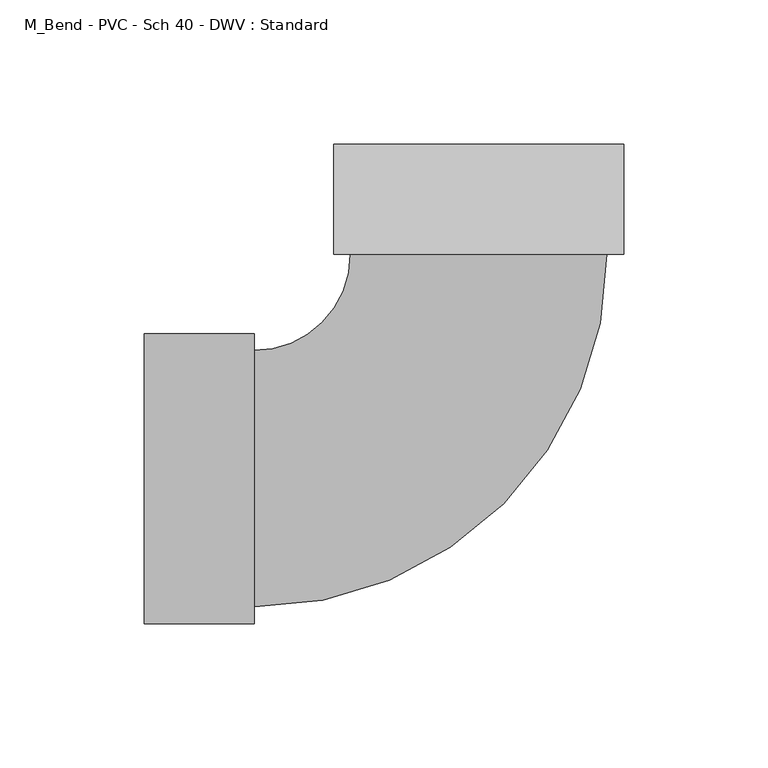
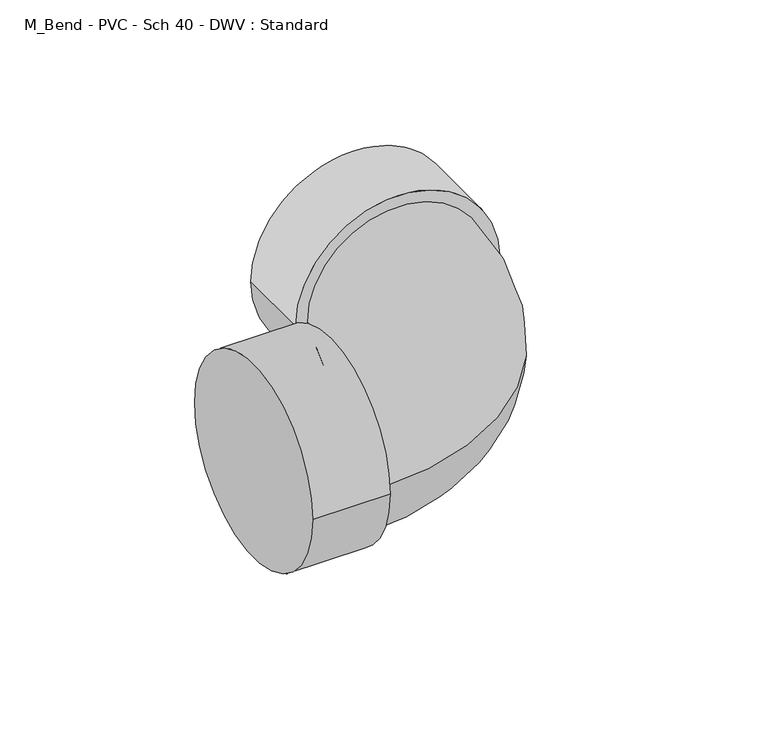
"""IFC4 building model written with IfcOpenShell, lengths in millimetres: pipe fitting geometry, M_Bend - PVC - Sch 40 - DWV : Standard."""

from ifc_helpers import new_model, si_unit, point, frame, origin, place, context, project, spatial, circle_curve, ellipse_curve, trimmed, source, transform, mapped, element, save
from ifc_brep_helpers import plane_surface, cylinder_surface, revolved_surface, advanced_brep


def m_bend_pvc_sch_40_dwv_standard_0050fb47(model_context):
    return source(origin(), model_context, "Body", "AdvancedBrep", [
        advanced_brep(
        [(-115.9002, -50.2666, 0.0), (-115.9002, 50.2666, 0.0), (-77.8002, -50.2666, 0.0), (-77.8002, 50.2666, 0.0), (-77.8002, -44.45, 0.0), (-77.8002, 44.45, 0.0), (-44.4500397, 77.8001773, 0.0), (44.4499603, 77.8002227, 0.0), (50.2665603, 77.8002256, 0.0), (-50.2666397, 77.8001744, 0.0), (50.2665409, 115.9002256, 0.0), (-50.2666591, 115.9001744, 0.0)],
        [
            (0, 1, circle_curve(frame((-115.9002, 0.0, 0.0), z_axis=(-1.0, 0.0, 0.0), x_axis=(0.0, 1.0, 0.0)), 50.2666)),
            (1, 0, circle_curve(frame((-115.9002, 0.0, 0.0), z_axis=(-1.0, 0.0, 0.0), x_axis=(0.0, 1.0, 0.0)), 50.2666)),
            (2, 3, circle_curve(frame((-77.8002, 0.0, 0.0), z_axis=(1.0, 0.0, 0.0), x_axis=(0.0, 1.0, 0.0)), 50.2666)),
            (3, 2, circle_curve(frame((-77.8002, 0.0, 0.0), z_axis=(1.0, 0.0, 0.0), x_axis=(0.0, 1.0, 0.0)), 50.2666)),
            (4, 5, circle_curve(frame((-77.8002, 0.0, 0.0), z_axis=(-1.0, 0.0, 0.0), x_axis=(0.0, 1.0, 0.0)), 44.45)),
            (5, 4, circle_curve(frame((-77.8002, 0.0, 0.0), z_axis=(-1.0, 0.0, 0.0), x_axis=(0.0, 1.0, 0.0)), 44.45)),
            (0, 2),
            (3, 1),
            (6, 5, circle_curve(frame((-77.8002, 77.8001603, 0.0), z_axis=(0.0, 0.0, -1.0), x_axis=(0.0, -1.0, 0.0)), 33.3501603)),
            (4, 7, circle_curve(frame((-77.8002, 77.8001603, 0.0), z_axis=(0.0, 0.0, 1.0), x_axis=(0.0, -1.0, 0.0)), 122.2501603)),
            (7, 6, circle_curve(frame((-3.97e-05, 77.8002, 0.0), z_axis=(5.097531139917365e-07, -0.9999999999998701, 0.0), x_axis=(-0.9999999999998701, -5.097531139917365e-07, 0.0)), 44.45)),
            (6, 7, circle_curve(frame((-3.97e-05, 77.8002, 0.0), z_axis=(5.097531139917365e-07, -0.9999999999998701, 0.0), x_axis=(-0.9999999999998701, -5.097531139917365e-07, 0.0)), 44.45)),
            (8, 9, circle_curve(frame((-3.97e-05, 77.8002, 0.0), z_axis=(5.097531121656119e-07, -0.9999999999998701, 0.0), x_axis=(-0.9999999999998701, -5.097531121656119e-07, 0.0)), 50.2666)),
            (9, 8, circle_curve(frame((-3.97e-05, 77.8002, 0.0), z_axis=(5.097531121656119e-07, -0.9999999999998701, 0.0), x_axis=(-0.9999999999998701, -5.097531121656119e-07, 0.0)), 50.2666)),
            (10, 11, circle_curve(frame((-5.91e-05, 115.9002, 0.0), z_axis=(-5.097531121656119e-07, 0.9999999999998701, 0.0), x_axis=(-0.9999999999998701, -5.097531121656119e-07, 0.0)), 50.2666)),
            (11, 10, circle_curve(frame((-5.91e-05, 115.9002, 0.0), z_axis=(-5.097531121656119e-07, 0.9999999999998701, 0.0), x_axis=(-0.9999999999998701, -5.097531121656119e-07, 0.0)), 50.2666)),
            (8, 10),
            (11, 9),
        ],
        [
            plane_surface(frame((-115.9002, 0.0, 0.0), z_axis=(-1.0, 0.0, 0.0), x_axis=(0.0, 0.0, 1.0))),
            plane_surface(frame((-77.8002, 0.0, 0.0), z_axis=(1.0, 0.0, 0.0), x_axis=(0.0, 0.0, 1.0))),
            cylinder_surface(frame((-115.9002, 0.0, 0.0), z_axis=(-1.0, 0.0, 0.0), x_axis=(0.0, 1.0, 0.0)), 50.2666),
            revolved_surface(trimmed(ellipse_curve(frame((-77.8002, 0.0, 0.0), z_axis=(-1.0, 0.0, 0.0), x_axis=(0.0, 1.0, 0.0)), 44.45, 44.45), [point((-77.8002, -44.45, 0.0))], [point((-77.8002, 44.45, 0.0))], True, "CARTESIAN"), (-77.8002, 77.8001603, 0.0), (0.0, 0.0, 1.0)),
            revolved_surface(trimmed(ellipse_curve(frame((-77.8002, 0.0, 0.0), z_axis=(-1.0, 0.0, 0.0), x_axis=(0.0, 1.0, 0.0)), 44.45, 44.45), [point((-77.8002, 44.45, 0.0))], [point((-77.8002, -44.45, 0.0))], True, "CARTESIAN"), (-77.8002, 77.8001603, 0.0), (0.0, 0.0, 1.0)),
            plane_surface(frame((-3.97e-05, 77.8002, 0.0), z_axis=(5.097531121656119e-07, -0.9999999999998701, 0.0), x_axis=(0.0, 0.0, 1.0))),
            plane_surface(frame((-5.91e-05, 115.9002, 0.0), z_axis=(-5.097531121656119e-07, 0.9999999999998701, 0.0), x_axis=(0.0, 0.0, 1.0))),
            cylinder_surface(frame((-3.97e-05, 77.8002, 0.0), z_axis=(5.097531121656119e-07, -0.9999999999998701, 0.0), x_axis=(-0.9999999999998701, -5.097531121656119e-07, 0.0)), 50.2666),
        ],
        [
            (0, [[1, 2]]),
            (1, [[3, 4], [5, 6]]),
            (2, [[-1, 7, -4, 8]]),
            (2, [[-2, -8, -3, -7]]),
            (3, [[9, -5, 10, 11]]),
            (4, [[-9, 12, -10, -6]]),
            (5, [[13, 14], [-11, -12]]),
            (6, [[15, 16]]),
            (7, [[-13, 17, -16, 18]]),
            (7, [[-14, -18, -15, -17]]),
        ],
    ),
    ])


if __name__ == "__main__":
    model = new_model("IFC4")
    model_context = context("Model", 3, world=origin())
    ifc_project = project(units=[si_unit("LENGTHUNIT", "METRE", prefix="MILLI")], contexts=[model_context])
    site = spatial("IfcSite", under=ifc_project)
    building = spatial("IfcBuilding", under=site)
    placement = place(None, origin())
    m_bend_pvc_sch_40_dwv_standard_shape = m_bend_pvc_sch_40_dwv_standard_0050fb47(model_context)
    element("IfcPipeFitting", 1, ObjectType="M_Bend - PVC - Sch 40 - DWV : Standard", at=placement, inside=building, context=model_context, shape_type="MappedRepresentation", body=[
        mapped(m_bend_pvc_sch_40_dwv_standard_shape, transform((0.0, 0.0, 0.0), x_axis=(1.0, 0.0, 0.0), y_axis=(0.0, 1.0, 0.0), z_axis=(0.0, 0.0, 1.0))),
    ])
    save(model, "model.ifc")
